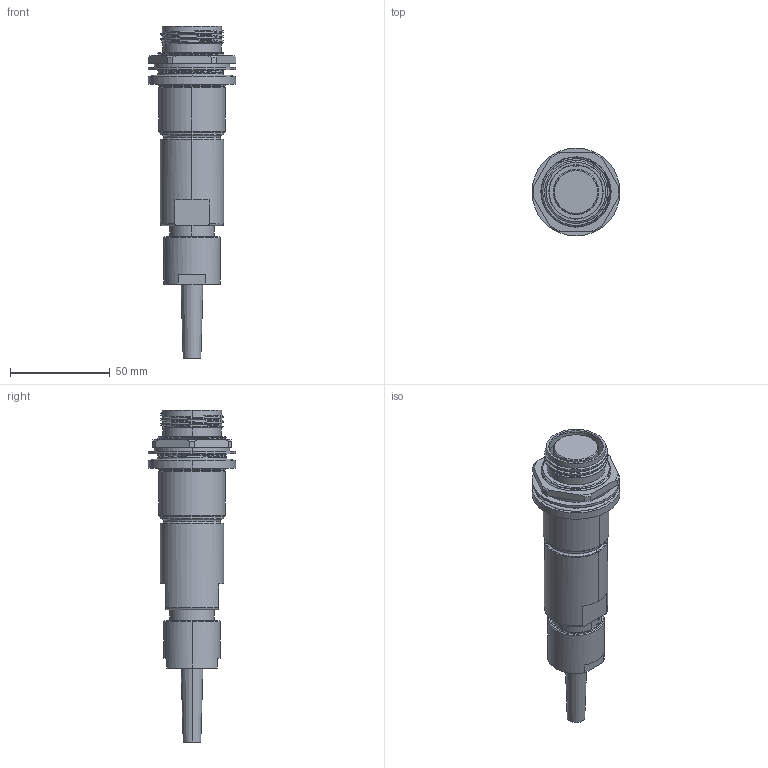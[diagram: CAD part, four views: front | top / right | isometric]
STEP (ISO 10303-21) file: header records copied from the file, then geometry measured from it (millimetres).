
FILE_DESCRIPTION (( 'STEP AP214' ), '1' );
FILE_NAME ('QLINK-RJTX-19XX-SXXX.STEP', '2025-09-30T22:03:12', ( '' ), ( '' ), 'SwSTEP 2.0', 'SolidWorks 2024', '' );
FILE_SCHEMA (( 'AUTOMOTIVE_DESIGN' ));
Length unit declared in the file: inch
Products named in the file (1): QLINK-RJTX-19XX-SXXX
Bounding box: 44.2 x 44.2 x 166.83 mm (x, y, z)
Volume: 102617.9 mm3; surface area: 27010.2 mm2
Topology: 2 solids, 2 shells, 223 faces, 576 edges, 371 vertices
Faces by surface type: cylinder 78, plane 45, cone 43, bspline 35, torus 22
Entity records: 17479 total; most frequent: CARTESIAN_POINT 12453, ORIENTED_EDGE 1152, DIRECTION 951, EDGE_CURVE 576, AXIS2_PLACEMENT_3D 397, VERTEX_POINT 371, EDGE_LOOP 247, ADVANCED_FACE 223
